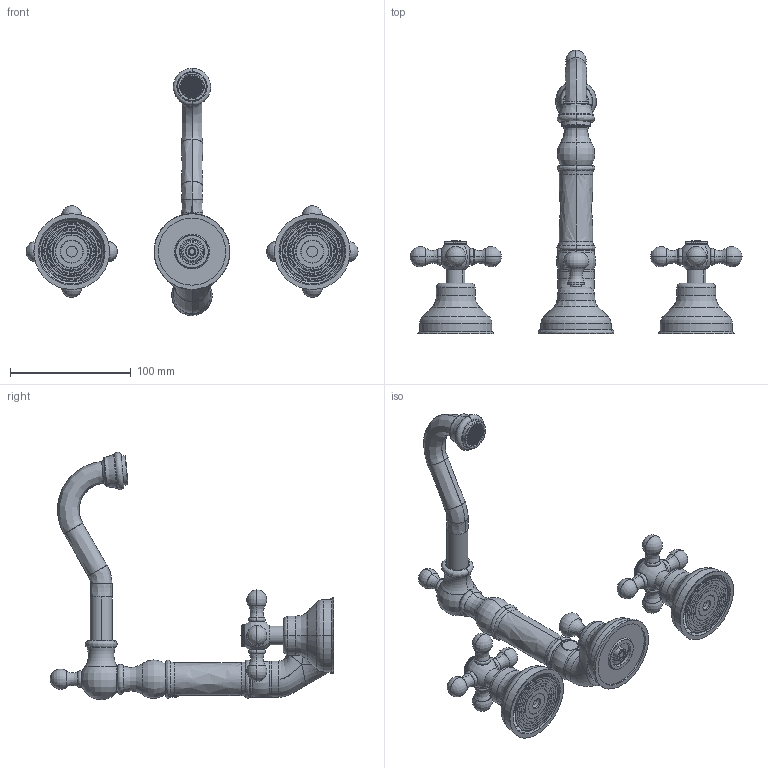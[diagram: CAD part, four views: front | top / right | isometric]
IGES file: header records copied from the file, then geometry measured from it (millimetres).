
Start section:  PTC IGES file: 21868.igs
Global section: file name: 21868.igs; native system: Creo Parametric by PTC Inc.; preprocessor: 2022014; author: carloff; organization: Unknown; date: 20260522.082900; units: millimetre
Bounding box: 274.4 x 234.25 x 204.52 mm (x, y, z)
Surface area: 163257.8 mm2 (no closed solid volume)
Topology: 0 solids, 0 shells, 4182 faces, 27514 edges, 27460 vertices
Faces by surface type: bspline 3135, revolution 1047
